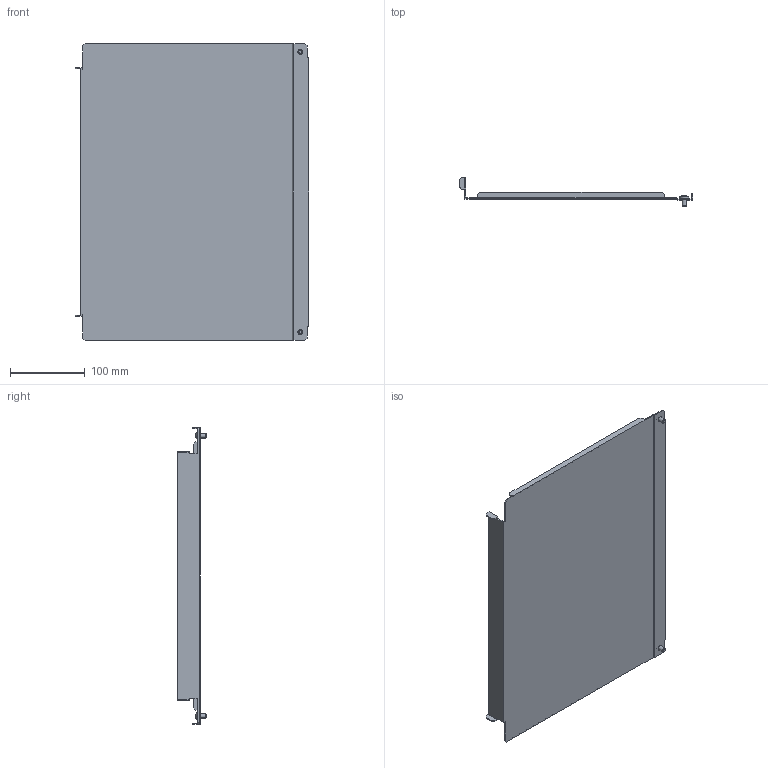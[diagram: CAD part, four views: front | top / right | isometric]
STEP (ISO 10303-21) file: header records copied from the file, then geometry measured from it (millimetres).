
FILE_DESCRIPTION (( 'STEP AP214' ), '1' );
FILE_NAME ('FO-00-PVHC-045 Ïåðåãîðîäêà àïïàðàòíîãî îòñåêà áîêîâàÿ âåðòèêàëüíàÿ ñïëîøíàÿ âûñîòà 450 ìì.STEP', '2025-08-18T06:39:21', ( '' ), ( '' ), 'SwSTEP 2.0', 'SolidWorks 2023', '' );
FILE_SCHEMA (( 'AUTOMOTIVE_DESIGN' ));
Length unit declared in the file: millimetre
Products named in the file (1): FO-00-PVHC-045 Перегородка аппаратного отсека боковая вертикальная сплошная высота 450 мм
Bounding box: 312.84 x 38.98 x 397 mm (x, y, z)
Volume: 206121.9 mm3; surface area: 276282.2 mm2
Topology: 1 solids, 1 shells, 130 faces, 360 edges, 236 vertices
Faces by surface type: plane 76, cylinder 42, torus 4, cone 4, sphere 4
Entity records: 4207 total; most frequent: CARTESIAN_POINT 861, ORIENTED_EDGE 720, DIRECTION 658, EDGE_CURVE 360, LINE 256, VECTOR 256, VERTEX_POINT 236, AXIS2_PLACEMENT_3D 201
